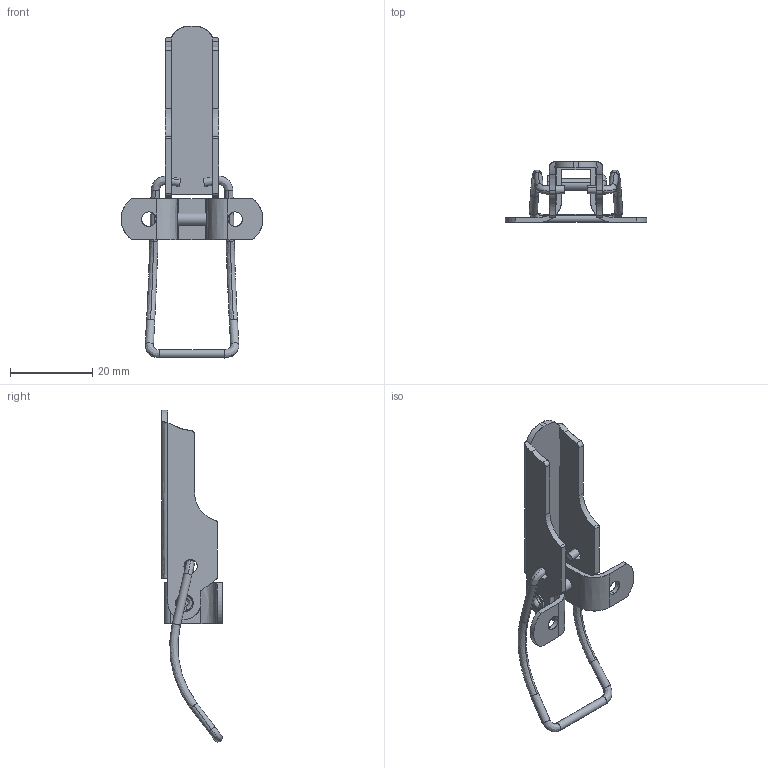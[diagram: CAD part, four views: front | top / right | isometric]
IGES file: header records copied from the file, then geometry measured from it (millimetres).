
Start section: SolidWorks IGES FILE using analytic representation for surfaces
Global section: file name: C:\WINNT\Profiles\cbrechard\Bureau\GE 570\GE 570.IGS; native system: SolidWorks 2001Plus by SolidWorks Corporation; preprocessor: Version 5.3; author: CBRECHARD; date: 050125.140037; units: millimetre
Bounding box: 34.5 x 14.7 x 80.79 mm (x, y, z)
Surface area: 5020.5 mm2 (no closed solid volume)
Topology: 0 solids, 0 shells, 119 faces, 1714 edges, 1710 vertices
Faces by surface type: revolution 64, bspline 55
